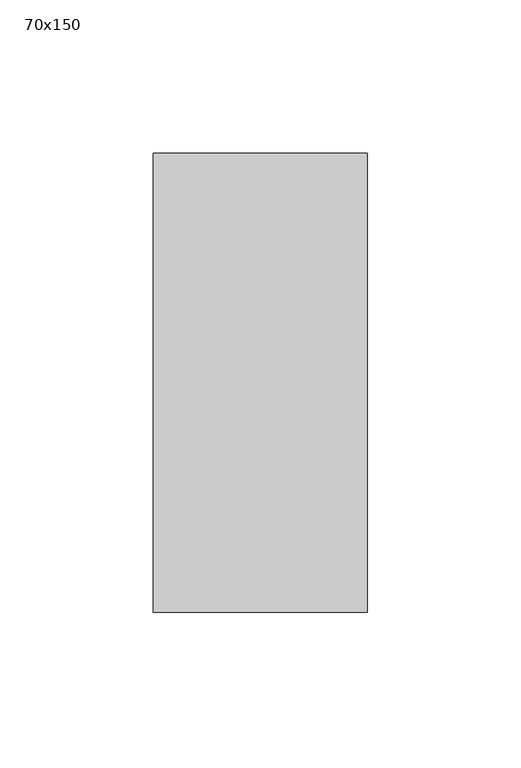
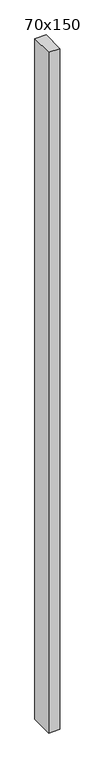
"""IFC4 building model written with IfcOpenShell, lengths in millimetres: member geometry, 長方形のマリオン : 70x150."""

import ifcopenshell
import ifcopenshell.guid

model = None  # the IFC model being written
_history = None  # IfcOwnerHistory: only IFC2X3 demands one
_inside = {}  # id of a spatial element -> (the spatial element, [elements in it])
_under = {}  # id of a project, library or spatial element -> (it, [spatial elements below it])
_declared = {}  # id of a project -> (the project, [libraries it declares])
_typed = {}  # id of a type object -> (the type object, [elements of that type])
_made_of = {}  # id of a material, layer set ... -> (it, [elements and type objects made of it])


def new_model(schema):
    """Start an empty IFC model of exactly this schema.

    Asked for "IFC4X3", IfcOpenShell would pick the latest addendum, in which some entities
    have other attributes; the version numbers below select the first issue.
    IFC2X3 requires an IfcOwnerHistory on every rooted entity: one is made here for all.
    """
    global model, _history
    if schema == "IFC4X3":
        model = ifcopenshell.file(schema_version=(4, 3, 0, 0))
    else:
        model = ifcopenshell.file(schema=schema)
    _inside.clear()
    _under.clear()
    _declared.clear()
    _typed.clear()
    _made_of.clear()
    _history = None
    if model.schema == "IFC2X3":
        org = make("IfcOrganization", Name="unknown")
        user = make(
            "IfcPersonAndOrganization",
            ThePerson=make("IfcPerson", FamilyName="unknown"),
            TheOrganization=org,
        )
        app = make(
            "IfcApplication",
            ApplicationDeveloper=org,
            Version="unknown",
            ApplicationFullName="unknown",
            ApplicationIdentifier="unknown",
        )
        _history = make(
            "IfcOwnerHistory",
            OwningUser=user,
            OwningApplication=app,
            ChangeAction="ADDED",
            CreationDate=0,
        )
    return model


def make(cls, **values):
    """One entity of the class cls with the attributes given. An attribute that is None is left unset."""
    return model.create_entity(
        cls, **{name: value for name, value in values.items() if value is not None}
    )


def rooted(cls, **values):
    """An entity with a GlobalId (a new one), such as an element, a storey or a relation."""
    return make(cls, GlobalId=ifcopenshell.guid.new(), OwnerHistory=_history, **values)


def si_unit(unit_type, name, prefix=None):
    """IfcSIUnit, for example si_unit("LENGTHUNIT", "METRE", prefix="MILLI")."""
    return make("IfcSIUnit", UnitType=unit_type, Prefix=prefix, Name=name)


def assignment(units):
    """IfcUnitAssignment: the units of a project."""
    return None if units is None else make("IfcUnitAssignment", Units=units)


def point(xyz):
    """IfcCartesianPoint."""
    return None if xyz is None else make("IfcCartesianPoint", Coordinates=xyz)


def direction(xyz):
    """IfcDirection."""
    return None if xyz is None else make("IfcDirection", DirectionRatios=xyz)


def frame(location, z_axis=None, x_axis=None):
    """IfcAxis2Placement3D, a coordinate frame: its origin and axes. An axis left out is left unset."""
    return make(
        "IfcAxis2Placement3D",
        Location=point(location),
        Axis=direction(z_axis),
        RefDirection=direction(x_axis),
    )


def origin():
    """The frame at (0, 0, 0) with its axes left unset."""
    return frame((0.0, 0.0, 0.0))


def place(relative_to, where):
    """IfcLocalPlacement: puts the frame where relative to a parent placement (None: the world)."""
    return make(
        "IfcLocalPlacement", PlacementRelTo=relative_to, RelativePlacement=where
    )


def context(
    kind, dimensions, precision=None, world=None, true_north=None, identifier=None
):
    """IfcGeometricRepresentationContext, for example the 3D "Model" context."""
    return make(
        "IfcGeometricRepresentationContext",
        ContextIdentifier=identifier,
        ContextType=kind,
        CoordinateSpaceDimension=dimensions,
        Precision=precision,
        WorldCoordinateSystem=world,
        TrueNorth=true_north,
    )


def project(units=None, contexts=None):
    """IfcProject with its units and contexts."""
    return rooted(
        "IfcProject",
        Name="project",
        RepresentationContexts=contexts,
        UnitsInContext=assignment(units),
    )


def spatial(cls, under=None, at=None, **own):
    """A site, building, storey or space (cls), placed at a placement, below another one or the project."""
    s = rooted(cls, ObjectPlacement=at, **own)
    if under is not None:
        _under.setdefault(under.id(), (under, []))[1].append(s)
    return s


def polyline(points):
    """IfcPolyline through the points."""
    return make("IfcPolyline", Points=[point(p) for p in points])


def outline(outer, holes=None, kind="AREA"):
    """IfcArbitraryClosedProfileDef: a profile drawn as a closed curve; with holes, ...WithVoids."""
    if holes is None:
        return make("IfcArbitraryClosedProfileDef", ProfileType=kind, OuterCurve=outer)
    return make(
        "IfcArbitraryProfileDefWithVoids",
        ProfileType=kind,
        OuterCurve=outer,
        InnerCurves=holes,
    )


def extrude(swept, where, along, depth):
    """IfcExtrudedAreaSolid: the profile swept, set in the frame where, extruded along a direction by depth."""
    return make(
        "IfcExtrudedAreaSolid",
        SweptArea=swept,
        Position=where,
        ExtrudedDirection=direction(along),
        Depth=depth,
    )


def shape(context_of_items, identifier, shape_type, items):
    """IfcShapeRepresentation: the items that make up one representation, for example the "Body"."""
    return make(
        "IfcShapeRepresentation",
        ContextOfItems=context_of_items,
        RepresentationIdentifier=identifier,
        RepresentationType=shape_type,
        Items=items,
    )


def source(mapping_origin, context_of_items, identifier, shape_type, items):
    """IfcRepresentationMap: a shape defined once, which mapped items show again and again."""
    return make(
        "IfcRepresentationMap",
        MappingOrigin=mapping_origin,
        MappedRepresentation=shape(context_of_items, identifier, shape_type, items),
    )


def transform(
    local_origin,
    x_axis=None,
    y_axis=None,
    z_axis=None,
    scale=None,
    scale2=None,
    scale3=None,
    uniform=True,
):
    """IfcCartesianTransformationOperator3D, or its non-uniform kind. x_axis, y_axis, z_axis: its Axis1, 2, 3."""
    if uniform:
        return make(
            "IfcCartesianTransformationOperator3D",
            Axis1=direction(x_axis),
            Axis2=direction(y_axis),
            LocalOrigin=point(local_origin),
            Scale=scale,
            Axis3=direction(z_axis),
        )
    return make(
        "IfcCartesianTransformationOperator3DnonUniform",
        Axis1=direction(x_axis),
        Axis2=direction(y_axis),
        LocalOrigin=point(local_origin),
        Scale=scale,
        Axis3=direction(z_axis),
        Scale2=scale2,
        Scale3=scale3,
    )


def mapped(mapping_source, mapping_target):
    """IfcMappedItem: shows the shape of a source again, moved by a transform."""
    return make(
        "IfcMappedItem", MappingSource=mapping_source, MappingTarget=mapping_target
    )


def made_of(thing, what):
    """Note that an element or type object is made of a material, layer set ...; save() writes the relation."""
    if what is not None:
        _made_of.setdefault(what.id(), (what, []))[1].append(thing)
    return thing


def element(
    cls,
    number,
    at=None,
    inside=None,
    cuts=None,
    type_object=None,
    material=None,
    context=None,
    identifier="Body",
    shape_type=None,
    held_by="IfcProductDefinitionShape",
    body=None,
    shapes=None,
    **own,
):
    """One element of the class cls, such as IfcWall. Its Tag is "e" and its number.

    at: its placement. inside: the storey or other place that contains it. cuts: it is an
    opening in that element (IfcRelVoidsElement). A single representation is given by context,
    identifier, shape_type and body (its items); several are given by shapes. held_by: the class
    of the entity that holds the representations. save() writes the other relations.
    """
    e = rooted(cls, Tag="e%d" % number, ObjectPlacement=at, **own)
    if body is not None:
        shapes = [shape(context, identifier, shape_type, body)]
    if shapes is not None:
        e.Representation = make(held_by, Representations=shapes)
    if inside is not None:
        _inside.setdefault(inside.id(), (inside, []))[1].append(e)
    if cuts is not None:
        rooted(
            "IfcRelVoidsElement", RelatingBuildingElement=cuts, RelatedOpeningElement=e
        )
    if type_object is not None:
        _typed.setdefault(type_object.id(), (type_object, []))[1].append(e)
    return made_of(e, material)


def aggregate(whole, parts):
    """IfcRelAggregates: a whole, such as a stair, and the parts it consists of."""
    return rooted("IfcRelAggregates", RelatingObject=whole, RelatedObjects=parts)


def save(model, path):
    """Write the relations noted so far, then the file.

    IfcRelAggregates (storeys below a building ...), IfcRelContainedInSpatialStructure (elements
    in a storey), IfcRelDefinesByType, IfcRelAssociatesMaterial and IfcRelDeclares: one each for
    every whole, place, type object, material and project.
    """
    for whole, parts in _under.values():
        aggregate(whole, parts)
    for where, things in _inside.values():
        rooted(
            "IfcRelContainedInSpatialStructure",
            RelatedElements=things,
            RelatingStructure=where,
        )
    for kind, things in _typed.values():
        rooted("IfcRelDefinesByType", RelatedObjects=things, RelatingType=kind)
    for what, things in _made_of.values():
        rooted("IfcRelAssociatesMaterial", RelatedObjects=things, RelatingMaterial=what)
    for by, libraries in _declared.values():
        rooted("IfcRelDeclares", RelatingContext=by, RelatedDefinitions=libraries)
    model.write(path)


def member_70x150_003f591b(model_context):
    return source(origin(), model_context, "Body", "SweptSolid", [
        extrude(outline(polyline([(35.0, 75.0), (35.0, -75.0), (-35.0, -75.0), (-35.0, 75.0), (35.0, 75.0)])), frame((0.0, 0.0, -4500.0), z_axis=(0.0, 0.0, 1.0), x_axis=(1.0, 0.0, 0.0)), (0.0, 0.0, 1.0), 4500.0),
    ])


if __name__ == "__main__":
    model = new_model("IFC4")
    model_context = context("Model", 3, world=origin())
    ifc_project = project(units=[si_unit("LENGTHUNIT", "METRE", prefix="MILLI")], contexts=[model_context])
    site = spatial("IfcSite", under=ifc_project)
    building = spatial("IfcBuilding", under=site)
    placement = place(None, origin())
    member_70x150_shape = member_70x150_003f591b(model_context)
    element("IfcMember", 1, ObjectType="長方形のマリオン : 70x150", at=placement, inside=building, context=model_context, shape_type="MappedRepresentation", body=[
        mapped(member_70x150_shape, transform((0.0, 0.0, 0.0), x_axis=(1.0, 0.0, 0.0), y_axis=(0.0, 1.0, 0.0), z_axis=(0.0, 0.0, 1.0))),
    ])
    save(model, "model.ifc")
